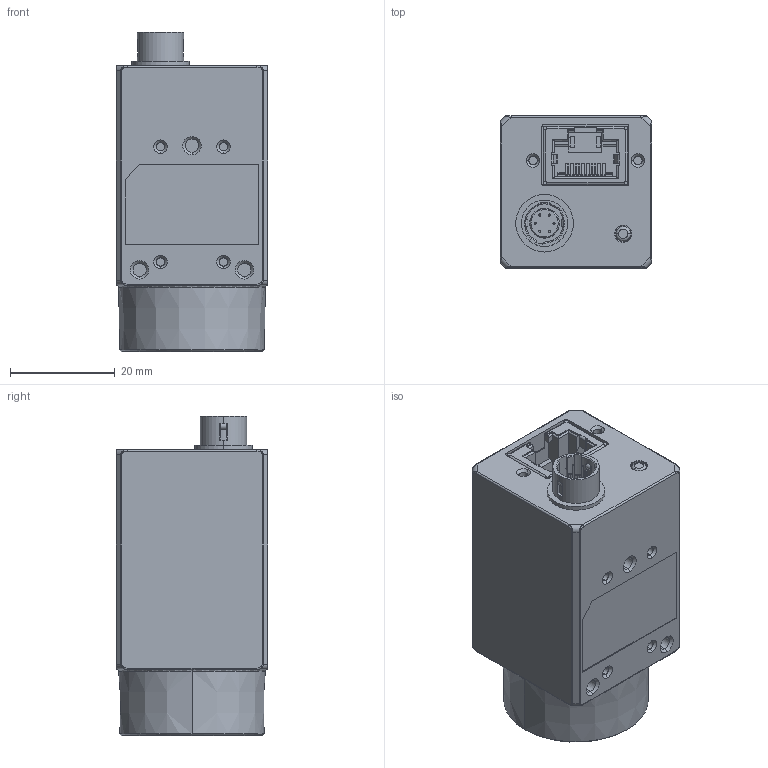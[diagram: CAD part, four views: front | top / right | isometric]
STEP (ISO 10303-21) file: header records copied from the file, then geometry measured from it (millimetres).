
FILE_DESCRIPTION((''),'2;1');
FILE_NAME('29_29_42_00_ASM','2021-02-21T17:16:14',('sunli10'),(''),'CREO PARAMETRIC BY PTC INC, 2017260','CREO PARAMETRIC BY PTC INC, 2017260','');
FILE_SCHEMA(('CONFIG_CONTROL_DESIGN'));
Length unit declared in the file: millimetre
Products named in the file (2): MSBR-1; 29_29_42_00_ASM
Assembly tree (1 placements, depth 2):
  29_29_42_00_ASM
    MSBR-1
Bounding box: 29 x 29 x 60.88 mm (x, y, z)
Volume: 34023.3 mm3; surface area: 14309.4 mm2
Topology: 1 solids, 1 shells, 1199 faces, 3525 edges, 2300 vertices
Faces by surface type: plane 806, cylinder 322, bspline 34, cone 31, torus 6
Entity records: 42083 total; most frequent: CARTESIAN_POINT 9940, ORIENTED_EDGE 7050, DIRECTION 6326, EDGE_CURVE 3525, VECTOR 2586, LINE 2586, VERTEX_POINT 2300, AXIS2_PLACEMENT_3D 1870
